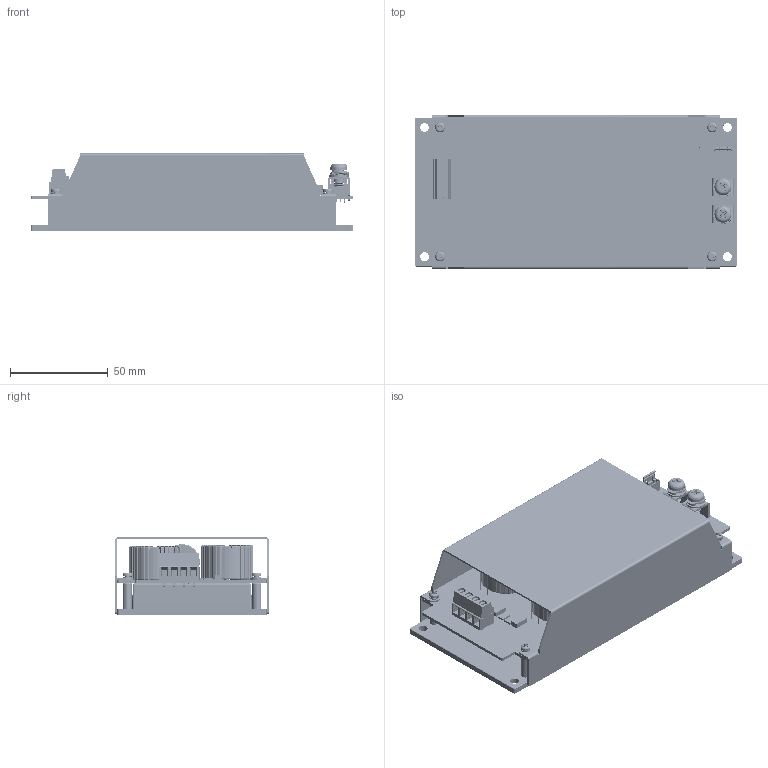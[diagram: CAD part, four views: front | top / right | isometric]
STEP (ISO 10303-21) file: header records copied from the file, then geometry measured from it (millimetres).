
FILE_DESCRIPTION (( 'STEP AP203' ), '1' );
FILE_NAME ('CHB300W-110S CMFD 12,24,28,48V成品圖2025.01.03.STEP', '2025-01-03T08:44:36', ( '' ), ( '' ), 'SwSTEP 2.0', 'SolidWorks 2020', '' );
FILE_SCHEMA (( 'CONFIG_CONTROL_DESIGN' ));
Products named in the file (1): CHB300W-110S CMFD 12,24,28,48V成品圖2025.01.03
Bounding box: 165 x 78.56 x 39.5 mm (x, y, z)
Volume: 144997.6 mm3; surface area: 126317.1 mm2
Topology: 14 solids, 36 shells, 2987 faces, 7679 edges, 4852 vertices
Faces by surface type: plane 1369, cylinder 785, torus 599, bspline 133, cone 93, sphere 8
Full cylindrical faces by diameter (mm): 0.45 x24, 0.8 x4, 1 x13, 1.2 x5, 1.5 x2, 2 x5, 2.2 x8, 3.2 x11, 3.239 x3, 3.25 x1, 3.264 x1, 3.8 x4, 4 x9, 4.3 x4, 4.5 x4, 4.6 x4, 4.7 x8, 5 x8, 5.3 x2, 5.5 x2, 10 x2, 12 x1, 12.8 x1, 13 x1, 14 x2, 18.3 x2
Entity records: 144610 total; most frequent: CARTESIAN_POINT 76725, ORIENTED_EDGE 14596, DIRECTION 13026, EDGE_CURVE 7298, AXIS2_PLACEMENT_3D 4844, VERTEX_POINT 4733, EDGE_LOOP 3485, VECTOR 3338
